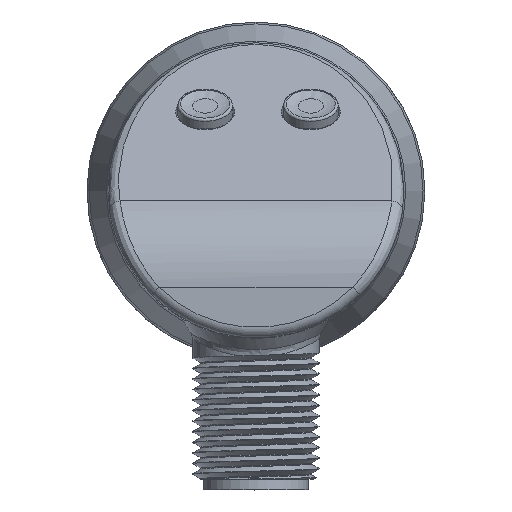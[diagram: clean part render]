
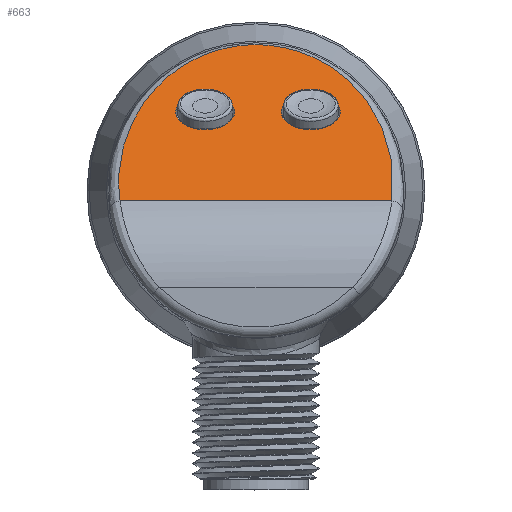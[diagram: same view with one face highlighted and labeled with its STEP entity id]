
A CAD part, top view. The second image highlights one B-rep face of the part: STEP entity #663.
In plain terms, the highlighted planar face has unit normal (0, 0.819, 0.574).
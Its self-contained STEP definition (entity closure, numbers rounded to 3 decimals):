
#345=ELLIPSE('',#4407,22.665,13.);
#384=FACE_BOUND('',#1244,.T.);
#385=FACE_BOUND('',#1245,.T.);
#386=FACE_BOUND('',#1246,.T.);
#663=ADVANCED_FACE('',(#384,#385,#386),#909,.T.);
#909=PLANE('',#4408);
#1244=EDGE_LOOP('',(#2429));
#1245=EDGE_LOOP('',(#2430));
#1246=EDGE_LOOP('',(#2431,#2432));
#1678=LINE('',#8567,#1854);
#1854=VECTOR('',#5131,1.);
#2429=ORIENTED_EDGE('',*,*,#3761,.T.);
#2430=ORIENTED_EDGE('',*,*,#3762,.T.);
#2431=ORIENTED_EDGE('',*,*,#3763,.T.);
#2432=ORIENTED_EDGE('',*,*,#3764,.T.);
#3318=VERTEX_POINT('',#8564);
#3319=VERTEX_POINT('',#8566);
#3320=VERTEX_POINT('',#8568);
#3321=VERTEX_POINT('',#8569);
#3761=EDGE_CURVE('',#3318,#3318,#4125,.T.);
#3762=EDGE_CURVE('',#3319,#3319,#4126,.T.);
#3763=EDGE_CURVE('',#3320,#3321,#1678,.T.);
#3764=EDGE_CURVE('',#3321,#3320,#345,.T.);
#4125=CIRCLE('',#4405,2.8);
#4126=CIRCLE('',#4406,2.8);
#4405=AXIS2_PLACEMENT_3D('',#8563,#5127,#5128);
#4406=AXIS2_PLACEMENT_3D('',#8565,#5129,#5130);
#4407=AXIS2_PLACEMENT_3D('',#8570,#5132,#5133);
#4408=AXIS2_PLACEMENT_3D('',#8571,#5134,#5135);
#5127=DIRECTION('',(0.,-0.819,-0.574));
#5128=DIRECTION('',(0.,-0.574,0.819));
#5129=DIRECTION('',(0.,-0.819,-0.574));
#5130=DIRECTION('',(0.,-0.574,0.819));
#5131=DIRECTION('',(1.,0.,0.));
#5132=DIRECTION('',(0.,0.819,0.574));
#5133=DIRECTION('',(0.,0.574,-0.819));
#5134=DIRECTION('',(0.,0.819,0.574));
#5135=DIRECTION('',(0.,0.574,-0.819));
#8563=CARTESIAN_POINT('',(5.188,7.421,29.701));
#8564=CARTESIAN_POINT('',(5.188,5.815,31.995));
#8565=CARTESIAN_POINT('',(-4.812,7.421,29.701));
#8566=CARTESIAN_POINT('',(-4.812,5.815,31.995));
#8567=CARTESIAN_POINT('',(5.,-1.006,41.736));
#8568=CARTESIAN_POINT('',(-12.871,-1.006,41.736));
#8569=CARTESIAN_POINT('',(12.871,-1.006,41.736));
#8570=CARTESIAN_POINT('',(0.,0.819,39.13));
#8571=CARTESIAN_POINT('',(5.,5.5,32.444));
